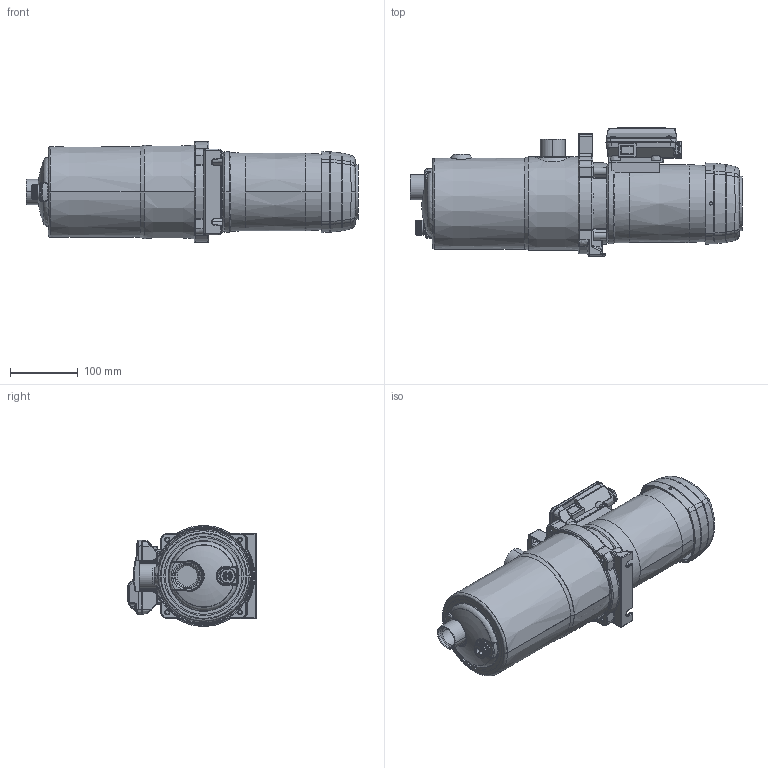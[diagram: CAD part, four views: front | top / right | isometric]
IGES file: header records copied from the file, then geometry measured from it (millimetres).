
Start section:  PTC IGES file: tecno_25_3.igs
Global section: file name: tecno_25_3.igs; native system: Pro/ENGINEER by Parametric Technology Corporation; preprocessor: 2008150; author: usuari; organization: Unknown; date: 20151117.125425; units: millimetre
Bounding box: 489 x 188.8 x 148.25 mm (x, y, z)
Surface area: 566249.2 mm2 (no closed solid volume)
Topology: 0 solids, 0 shells, 2100 faces, 10595 edges, 10578 vertices
Faces by surface type: revolution 1089, bspline 1011
